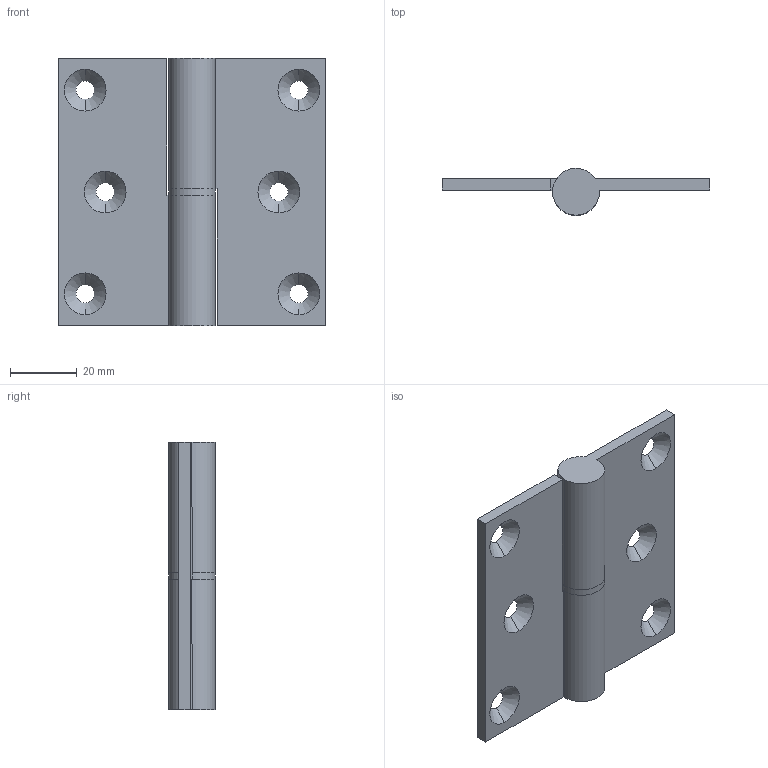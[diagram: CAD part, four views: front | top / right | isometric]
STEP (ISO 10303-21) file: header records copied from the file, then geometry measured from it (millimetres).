
FILE_DESCRIPTION((''),'2;1');
FILE_NAME('6085.01,02.stp','2015-07-23T09:15:02',(''),(''),'Mechanical Desktop 2006','Mechanical Desktop 2006',', , ');
FILE_SCHEMA(('CONFIG_CONTROL_DESIGN'));
Length unit declared in the file: millimetre
Products named in the file (1): 6085.01-02
Bounding box: 80 x 14 x 80 mm (x, y, z)
Volume: 29373.5 mm3; surface area: 17460.4 mm2
Topology: 3 solids, 3 shells, 44 faces, 108 edges, 72 vertices
Faces by surface type: plane 18, cylinder 14, cone 12
Entity records: 1443 total; most frequent: DIRECTION 250, CARTESIAN_POINT 225, ORIENTED_EDGE 216, EDGE_CURVE 108, AXIS2_PLACEMENT_3D 97, VERTEX_POINT 72, EDGE_LOOP 60, VECTOR 56
